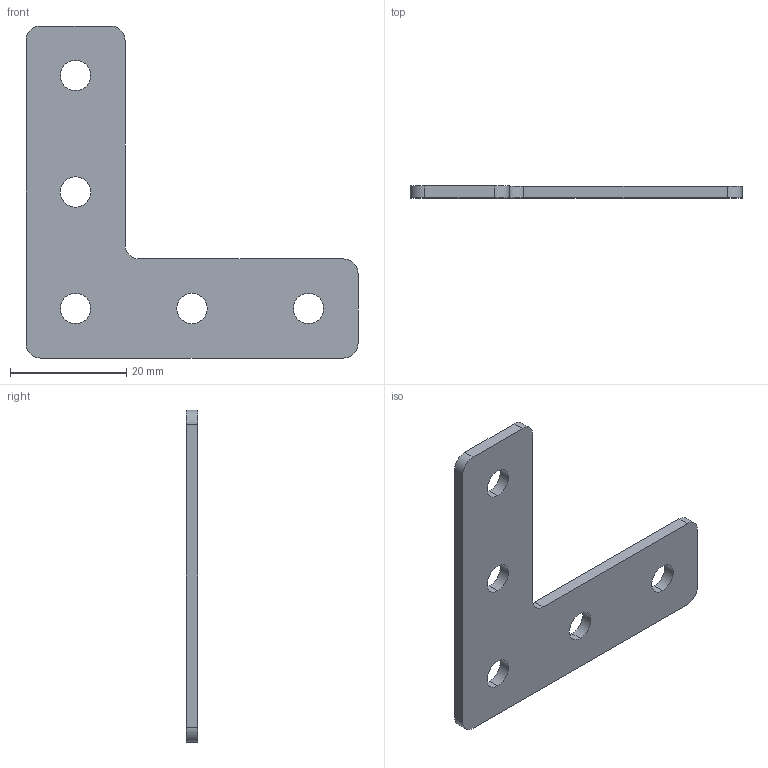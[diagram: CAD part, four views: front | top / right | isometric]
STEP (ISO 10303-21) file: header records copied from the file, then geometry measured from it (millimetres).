
FILE_DESCRIPTION (( 'STEP AP203' ), '1' );
FILE_NAME ('Ã-5-20.STEP', '2016-07-19T12:43:14', ( 'RosInstal-MKM' ), ( '' ), 'SwSTEP 2.0', 'SolidWorks 2014', '' );
FILE_SCHEMA (( 'CONFIG_CONTROL_DESIGN' ));
Length unit declared in the file: millimetre
Products named in the file (1): ﾃ-5-20
Bounding box: 57 x 2 x 57 mm (x, y, z)
Surface area: 3681.4 mm2 (no closed solid volume)
Topology: 0 solids, 1 shells, 24 faces, 66 edges, 44 vertices
Faces by surface type: cylinder 16, plane 8
Entity records: 879 total; most frequent: DIRECTION 148, CARTESIAN_POINT 135, ORIENTED_EDGE 132, EDGE_CURVE 66, AXIS2_PLACEMENT_3D 57, VERTEX_POINT 44, EDGE_LOOP 34, VECTOR 34
